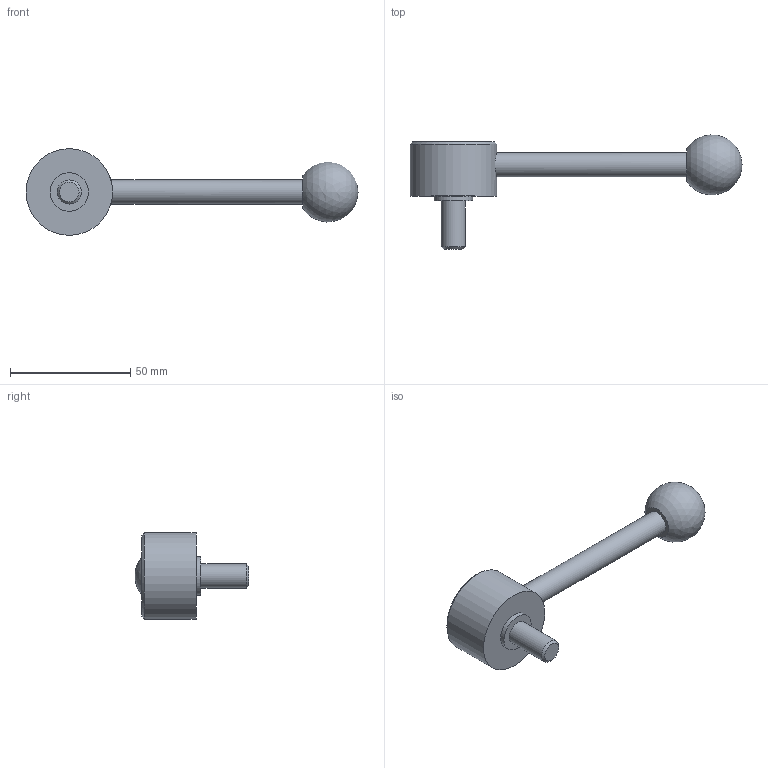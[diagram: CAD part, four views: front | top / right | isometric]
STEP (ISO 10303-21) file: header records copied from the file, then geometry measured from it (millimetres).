
FILE_DESCRIPTION( ( 'STEP AP203' ), '1' );
FILE_NAME( 'C:/Temp/Ganter_Step_05_03_2020/data/2_1/gn_125/gn_125_ms/gn_125_ms_d/Flat Adjustable Lever GN 125-36-M10-20-D.stp', '2020-03-05T11:00:47', ( 'License CC BY-ND 4.0' ), ( 'CADENAS' ), ' ', 'PARTsolutions', ' ' );
FILE_SCHEMA( ( 'CONFIG_CONTROL_DESIGN' ) );
Length unit declared in the file: millimetre
Products named in the file (1): _Flat Adjustable Lever GN 125-36-M10-20-D
Bounding box: 138 x 47.38 x 36 mm (x, y, z)
Volume: 38924.5 mm3; surface area: 9530 mm2
Topology: 1 solids, 1 shells, 14 faces, 23 edges, 15 vertices
Faces by surface type: plane 6, cylinder 5, cone 2, sphere 1
Full cylindrical faces by diameter (mm): 10 x2, 16 x1, 26 x1, 36 x1
Entity records: 392 total; most frequent: CARTESIAN_POINT 115, DIRECTION 54, AXIS2_PLACEMENT_3D 27, EDGE_LOOP 26, ORIENTED_EDGE 26, FACE_OUTER_BOUND 19, ADVANCED_FACE 14, VERTEX_POINT 14
